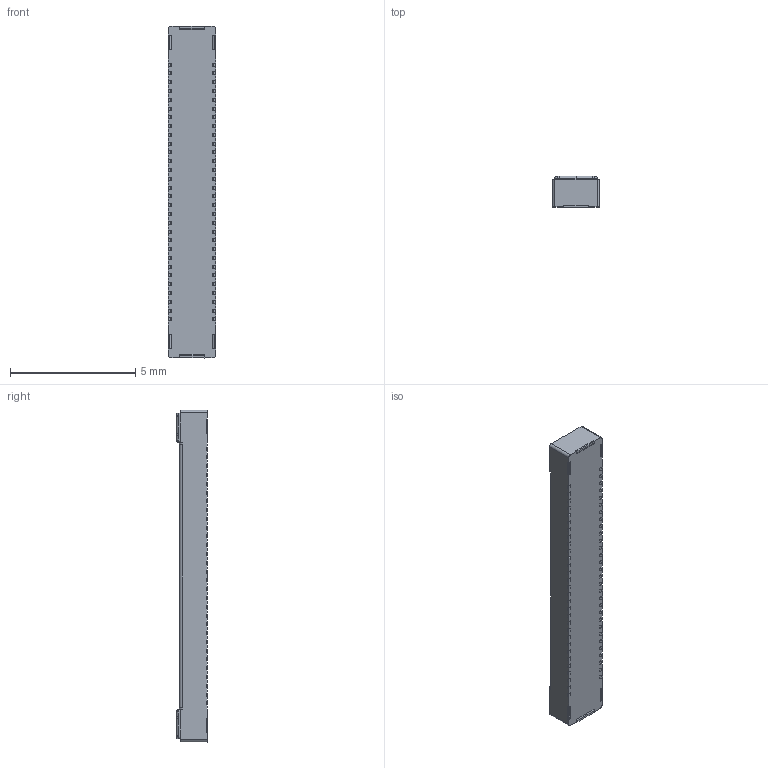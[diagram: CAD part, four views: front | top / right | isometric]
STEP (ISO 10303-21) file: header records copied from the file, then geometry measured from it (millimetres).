
FILE_DESCRIPTION(('Creo Elements/Direct Modeling STEP Export'),'2;1');
FILE_NAME('BK13H_60DS_2_0.35V_1.0.stp','2022-07-29T16:52:22',(''),(''),'PTC Creo Elements/Direct Modeling STEP processor for AP214 (Solid Model)','PTC Creo Elements/Direct Modeling 19.0C 15-Aug-2015 (C) Parametric Technology GmbH','');
FILE_SCHEMA(('AUTOMOTIVE_DESIGN { 1 0 10303 214 1 1 1 1 }'));
Products named in the file (2): CLOSED_3D_BK13H_60DS2-0.35V1.0.PRT; CLOSED_3D_BK13H_60DS2-0.35V1.0
Assembly tree (1 placements, depth 2):
  CLOSED_3D_BK13H_60DS2-0.35V1.0
    CLOSED_3D_BK13H_60DS2-0.35V1.0.PRT
Bounding box: 1.9 x 1.25 x 13.23 mm (x, y, z)
Volume: 23.9 mm3; surface area: 105.3 mm2
Topology: 1 solids, 1 shells, 1516 faces, 4088 edges, 2694 vertices
Faces by surface type: plane 1094, cylinder 282, cone 136, sphere 4
Entity records: 59911 total; most frequent: CARTESIAN_POINT 9350, ORIENTED_EDGE 8168, DIRECTION 7512, EDGE_CURVE 4084, VECTOR 3308, LINE 3308, VERTEX_POINT 2694, AXIS2_PLACEMENT_3D 2102
